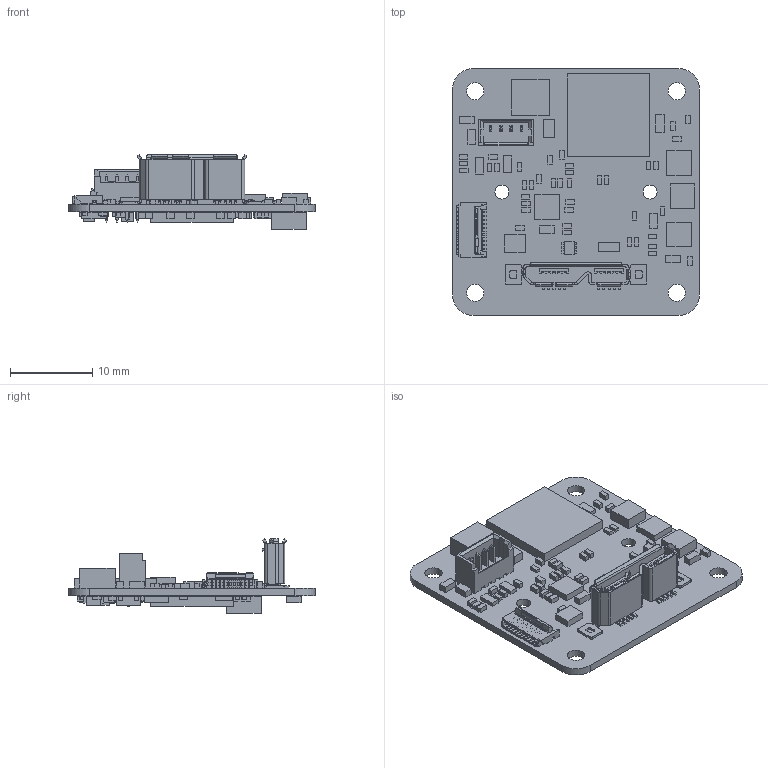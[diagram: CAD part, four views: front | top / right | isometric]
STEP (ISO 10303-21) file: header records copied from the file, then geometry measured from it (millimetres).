
FILE_DESCRIPTION(('Open CASCADE Model'),'2;1');
FILE_NAME('Open CASCADE Shape Model','2017-12-07T15:44:50',('Author'),( 'Open CASCADE'),'Open CASCADE STEP processor 6.8','Open CASCADE 6.8' ,'Unknown');
FILE_SCHEMA(('AUTOMOTIVE_DESIGN { 1 0 10303 214 1 1 1 1 }'));
Products named in the file (1): PCB
Bounding box: 30 x 30.01 x 9.08 mm (x, y, z)
Volume: 1325.1 mm3; surface area: 4095.5 mm2
Topology: 151 solids, 317 shells, 2246 faces, 6372 edges, 4621 vertices
Faces by surface type: plane 1942, cylinder 303, cone 1
Full cylindrical faces by diameter (mm): 0.5 x4, 0.7 x1, 0.8 x1, 1.7 x2, 2.1 x4
Entity records: 74555 total; most frequent: CARTESIAN_POINT 13462, ORIENTED_EDGE 11604, DIRECTION 11507, EDGE_CURVE 6309, LINE 5659, VECTOR 5659, VERTEX_POINT 4495, AXIS2_PLACEMENT_3D 2924
